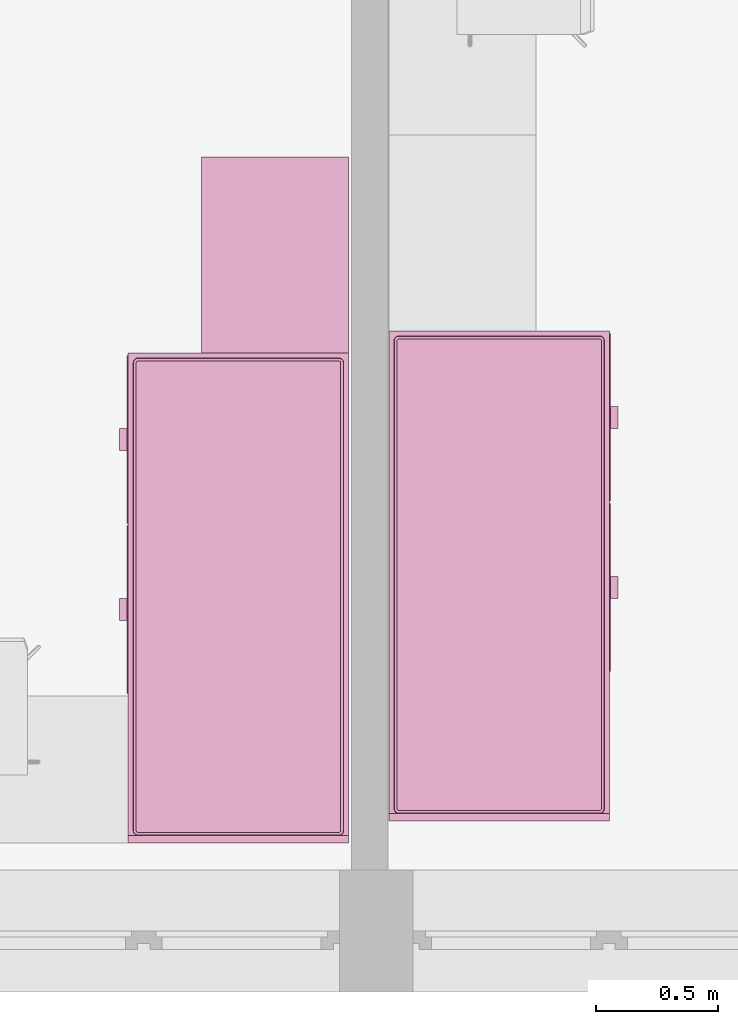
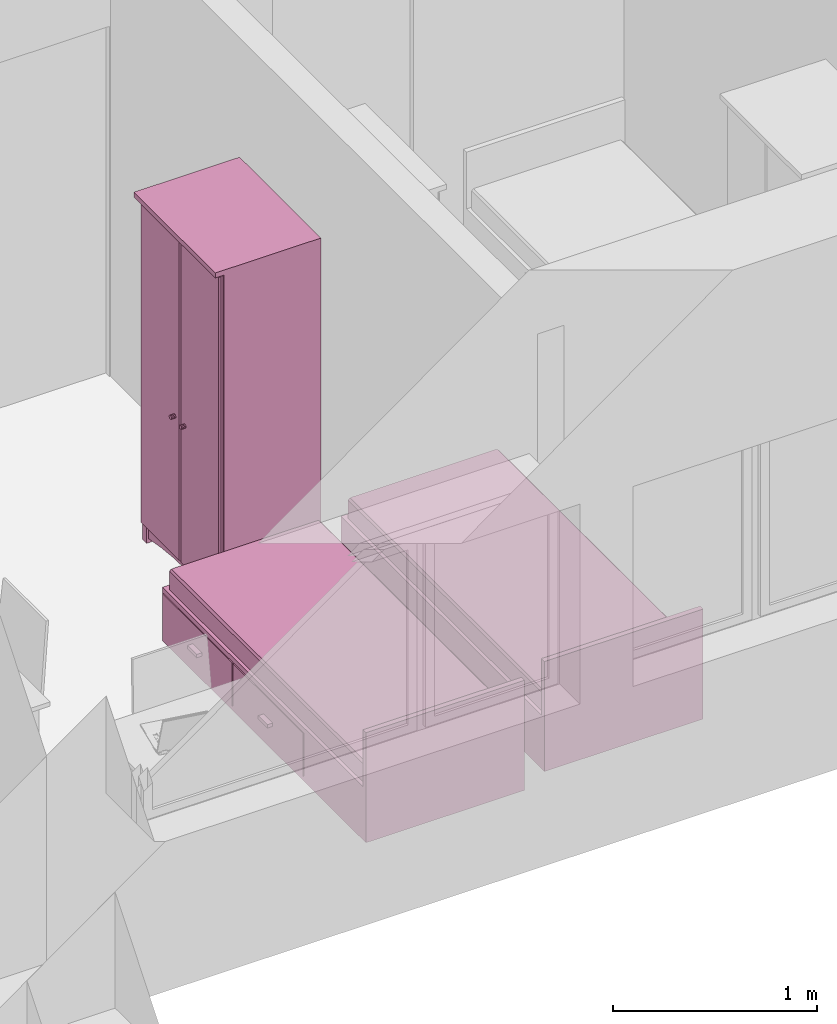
# One storey, part 113 of 165: 3 furnishings.
"""IFC2X3 building model written with IfcOpenShell, lengths in millimetres."""

from ifc_helpers import new_model, entity, si_unit, converted_unit, money_unit, direction, frame, origin_with_axes, place, context, subcontext, project, spatial, faceted_brep, source, transform, mapped, material, material_list, type_object, element, save


model = new_model("IFC2X3")

# Units and contexts
model_context = context("Model", 3, precision=1e-05, world=origin_with_axes(), true_north=direction((0.0, 1.0)))
body_context = subcontext(model_context, "Body", "Model", "MODEL_VIEW")
ifc_project = project(units=[si_unit("LENGTHUNIT", "METRE", prefix="MILLI"), si_unit("AREAUNIT", "SQUARE_METRE"), si_unit("VOLUMEUNIT", "CUBIC_METRE"), converted_unit("PLANEANGLEUNIT", "DEGREE", entity("IfcPlaneAngleMeasure", 0.0174532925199), si_unit("PLANEANGLEUNIT", "RADIAN"), dimensions=[0, 0, 0, 0, 0, 0, 0]), si_unit("SOLIDANGLEUNIT", "STERADIAN"), money_unit("USD"), converted_unit("TIMEUNIT", "Year", entity("IfcTimeMeasure", 31556926.0), si_unit("TIMEUNIT", "SECOND"), dimensions=[0, 0, 0, 0, 0, 0, 0]), si_unit("MASSUNIT", "GRAM"), si_unit("THERMODYNAMICTEMPERATUREUNIT", "DEGREE_CELSIUS"), si_unit("LUMINOUSINTENSITYUNIT", "LUMEN")], contexts=[model_context])

# Site, building, storey
site_placement = place(None, origin_with_axes())
site = spatial("IfcSite", under=ifc_project, at=site_placement, Name="Site", CompositionType="ELEMENT")
building_placement = place(site_placement, origin_with_axes())
building = spatial("IfcBuilding", under=site, at=building_placement, Name="Building", CompositionType="ELEMENT")
storey_placement = place(building_placement, frame((0.0, 0.0, 6300.0), z_axis=(0.0, 0.0, 1.0), x_axis=(1.0, 0.0, 0.0)))
storey = spatial("IfcBuildingStorey", under=building, at=storey_placement, Name="4KORRUS", CompositionType="ELEMENT", Elevation=6300.0)

# Furnishings
ifc_material = material(Name="Background")
ifc_material_list = material_list([ifc_material])
furnishing_element_type_1 = type_object("IfcFurnishingElementType", Name="Bed 19")
shared_shape_1 = source(origin_with_axes(), body_context, "Body", "Brep", [
    faceted_brep([(900.0, 1970.0, 0.0), (0.0, 1970.0, 0.0), (0.0, 2000.0, 0.0), (900.0, 2000.0, 0.0), (900.0, 1970.0, 660.0), (0.0, 1970.0, 660.0), (0.0, 2000.0, 660.0), (900.0, 2000.0, 660.0)], [[[0, 1, 2, 3]], [[1, 0, 4, 5]], [[2, 1, 5, 6]], [[3, 2, 6, 7]], [[0, 3, 7, 4]], [[5, 4, 7, 6]]]),
    faceted_brep([(900.0, 0.0, 0.0), (0.0, 0.0, 0.0), (0.0, 1970.0, 0.0), (900.0, 1970.0, 0.0), (900.0, 0.0, 320.0), (0.0, 0.0, 320.0), (0.0, 1970.0, 320.0), (900.0, 1970.0, 320.0)], [[[0, 1, 2, 3]], [[1, 0, 4, 5]], [[2, 1, 5, 6]], [[3, 2, 6, 7]], [[0, 3, 7, 4]], [[5, 4, 7, 6]]]),
    faceted_brep([(905.0, 10.0, 30.0), (900.0, 10.0, 30.0), (900.0, 695.0, 30.0), (905.0, 695.0, 30.0), (905.0, 10.0, 290.0), (900.0, 10.0, 290.0), (900.0, 695.0, 290.0), (905.0, 695.0, 290.0)], [[[0, 1, 2, 3]], [[1, 0, 4, 5]], [[2, 1, 5, 6]], [[3, 2, 6, 7]], [[0, 3, 7, 4]], [[5, 4, 7, 6]]]),
    faceted_brep([(935.0, 307.5, 150.0), (905.0, 307.5, 150.0), (905.0, 397.5, 150.0), (935.0, 397.5, 150.0), (935.0, 307.5, 170.0), (905.0, 307.5, 170.0), (905.0, 397.5, 170.0), (935.0, 397.5, 170.0)], [[[0, 1, 2, 3]], [[1, 0, 4, 5]], [[2, 1, 5, 6]], [[3, 2, 6, 7]], [[0, 3, 7, 4]], [[5, 4, 7, 6]]]),
    faceted_brep([(905.0, 705.0, 30.0), (900.0, 705.0, 30.0), (900.0, 1390.0, 30.0), (905.0, 1390.0, 30.0), (905.0, 705.0, 290.0), (900.0, 705.0, 290.0), (900.0, 1390.0, 290.0), (905.0, 1390.0, 290.0)], [[[0, 1, 2, 3]], [[1, 0, 4, 5]], [[2, 1, 5, 6]], [[3, 2, 6, 7]], [[0, 3, 7, 4]], [[5, 4, 7, 6]]]),
    faceted_brep([(935.0, 1002.5, 150.0), (905.0, 1002.5, 150.0), (905.0, 1092.5, 150.0), (935.0, 1092.5, 150.0), (935.0, 1002.5, 170.0), (905.0, 1002.5, 170.0), (905.0, 1092.5, 170.0), (935.0, 1092.5, 170.0)], [[[0, 1, 2, 3]], [[1, 0, 4, 5]], [[2, 1, 5, 6]], [[3, 2, 6, 7]], [[0, 3, 7, 4]], [[5, 4, 7, 6]]]),
    faceted_brep([(20.0, 40.0, 350.0), (20.0, 1950.0, 350.0), (21.522, 1957.654, 350.0), (25.858, 1964.142, 350.0), (32.346, 1968.478, 350.0), (40.0, 1970.0, 350.0), (860.0, 1970.0, 350.0), (867.654, 1968.478, 350.0), (874.142, 1964.142, 350.0), (878.478, 1957.654, 350.0), (880.0, 1950.0, 350.0), (880.0, 40.0, 350.0), (878.478, 32.346, 350.0), (874.142, 25.858, 350.0), (867.654, 21.522, 350.0), (860.0, 20.0, 350.0), (40.0, 20.0, 350.0), (32.346, 21.522, 350.0), (25.858, 25.858, 350.0), (21.522, 32.346, 350.0), (20.0, 40.0, 420.0), (20.0, 1950.0, 420.0), (21.522, 1957.654, 420.0), (25.858, 1964.142, 420.0), (32.346, 1968.478, 420.0), (40.0, 1970.0, 420.0), (860.0, 1970.0, 420.0), (867.654, 1968.478, 420.0), (874.142, 1964.142, 420.0), (878.478, 1957.654, 420.0), (880.0, 1950.0, 420.0), (880.0, 40.0, 420.0), (878.478, 32.346, 420.0), (874.142, 25.858, 420.0), (867.654, 21.522, 420.0), (860.0, 20.0, 420.0), (40.0, 20.0, 420.0), (32.346, 21.522, 420.0), (25.858, 25.858, 420.0), (21.522, 32.346, 420.0), (21.522, 40.15, 427.654), (21.522, 1949.85, 427.654), (22.956, 1957.06, 427.654), (26.955, 1963.045, 427.654), (32.94, 1967.044, 427.654), (40.15, 1968.478, 427.654), (859.85, 1968.478, 427.654), (867.06, 1967.044, 427.654), (873.045, 1963.045, 427.654), (877.044, 1957.06, 427.654), (878.478, 1949.85, 427.654), (878.478, 40.15, 427.654), (877.044, 32.94, 427.654), (873.045, 26.955, 427.654), (867.06, 22.956, 427.654), (859.85, 21.522, 427.654), (40.15, 21.522, 427.654), (32.94, 22.956, 427.654), (26.955, 26.955, 427.654), (22.956, 32.94, 427.654), (32.346, 41.216, 438.478), (32.346, 1948.784, 438.478), (33.152, 1952.836, 438.478), (34.759, 1955.241, 438.478), (37.164, 1956.848, 438.478), (41.216, 1957.654, 438.478), (858.784, 1957.654, 438.478), (862.836, 1956.848, 438.478), (865.241, 1955.241, 438.478), (866.848, 1952.836, 438.478), (867.654, 1948.784, 438.478), (867.654, 41.216, 438.478), (866.848, 37.164, 438.478), (865.241, 34.759, 438.478), (862.836, 33.152, 438.478), (858.784, 32.346, 438.478), (41.216, 32.346, 438.478), (37.164, 33.152, 438.478), (34.759, 34.759, 438.478), (33.152, 37.164, 438.478), (40.0, 41.97, 440.0), (40.0, 1948.03, 440.0), (40.327, 1949.673, 440.0), (40.0, 1950.0, 439.924), (41.97, 1950.0, 440.0), (858.03, 1950.0, 440.0), (859.673, 1949.673, 440.0), (860.0, 1950.0, 439.924), (860.0, 1948.03, 440.0), (860.0, 41.97, 440.0), (859.673, 40.327, 440.0), (860.0, 40.0, 439.924), (858.03, 40.0, 440.0), (41.97, 40.0, 440.0), (40.327, 40.327, 440.0), (40.0, 40.0, 439.924)], [[[0, 1, 2, 3, 4, 5, 6, 7, 8, 9, 10, 11, 12, 13, 14, 15, 16, 17, 18, 19]], [[1, 0, 20, 21]], [[2, 1, 21, 22]], [[3, 2, 22, 23]], [[4, 3, 23, 24]], [[5, 4, 24, 25]], [[6, 5, 25, 26]], [[7, 6, 26, 27]], [[8, 7, 27, 28]], [[9, 8, 28, 29]], [[10, 9, 29, 30]], [[11, 10, 30, 31]], [[12, 11, 31, 32]], [[13, 12, 32, 33]], [[14, 13, 33, 34]], [[15, 14, 34, 35]], [[16, 15, 35, 36]], [[17, 16, 36, 37]], [[18, 17, 37, 38]], [[19, 18, 38, 39]], [[0, 19, 39, 20]], [[21, 20, 40, 41]], [[22, 21, 41, 42]], [[23, 22, 42, 43]], [[24, 23, 43, 44]], [[25, 24, 44, 45]], [[26, 25, 45, 46]], [[27, 26, 46, 47]], [[28, 27, 47, 48]], [[29, 28, 48, 49]], [[30, 29, 49, 50]], [[31, 30, 50, 51]], [[32, 31, 51, 52]], [[33, 32, 52, 53]], [[34, 33, 53, 54]], [[35, 34, 54, 55]], [[36, 35, 55, 56]], [[37, 36, 56, 57]], [[38, 37, 57, 58]], [[39, 38, 58, 59]], [[20, 39, 59, 40]], [[41, 40, 60, 61]], [[42, 41, 61, 62]], [[43, 42, 62, 63]], [[44, 43, 63, 64]], [[45, 44, 64, 65]], [[46, 45, 65, 66]], [[47, 46, 66, 67]], [[48, 47, 67, 68]], [[49, 48, 68, 69]], [[50, 49, 69, 70]], [[51, 50, 70, 71]], [[52, 51, 71, 72]], [[53, 52, 72, 73]], [[54, 53, 73, 74]], [[55, 54, 74, 75]], [[56, 55, 75, 76]], [[57, 56, 76, 77]], [[58, 57, 77, 78]], [[59, 58, 78, 79]], [[40, 59, 79, 60]], [[61, 60, 80, 81]], [[62, 61, 81, 82, 83]], [[63, 62, 83]], [[64, 63, 83]], [[65, 64, 83, 82, 84]], [[66, 65, 84, 85]], [[67, 66, 85, 86, 87]], [[68, 67, 87]], [[69, 68, 87]], [[70, 69, 87, 86, 88]], [[71, 70, 88, 89]], [[72, 71, 89, 90, 91]], [[73, 72, 91]], [[74, 73, 91]], [[75, 74, 91, 90, 92]], [[76, 75, 92, 93]], [[77, 76, 93, 94, 95]], [[78, 77, 95]], [[79, 78, 95]], [[60, 79, 95, 94, 80]], [[81, 80, 94, 93, 92, 90, 89, 88, 86, 85, 84, 82]]]),
    faceted_brep([(20.0, 40.0, 350.0), (21.522, 32.346, 350.0), (25.858, 25.858, 350.0), (32.346, 21.522, 350.0), (40.0, 20.0, 350.0), (860.0, 20.0, 350.0), (867.654, 21.522, 350.0), (874.142, 25.858, 350.0), (878.478, 32.346, 350.0), (880.0, 40.0, 350.0), (880.0, 1950.0, 350.0), (878.478, 1957.654, 350.0), (874.142, 1964.142, 350.0), (867.654, 1968.478, 350.0), (860.0, 1970.0, 350.0), (40.0, 1970.0, 350.0), (32.346, 1968.478, 350.0), (25.858, 1964.142, 350.0), (21.522, 1957.654, 350.0), (20.0, 1950.0, 350.0), (20.0, 40.0, 320.0), (21.522, 32.346, 320.0), (25.858, 25.858, 320.0), (32.346, 21.522, 320.0), (40.0, 20.0, 320.0), (860.0, 20.0, 320.0), (867.654, 21.522, 320.0), (874.142, 25.858, 320.0), (878.478, 32.346, 320.0), (880.0, 40.0, 320.0), (880.0, 1950.0, 320.0), (878.478, 1957.654, 320.0), (874.142, 1964.142, 320.0), (867.654, 1968.478, 320.0), (860.0, 1970.0, 320.0), (40.0, 1970.0, 320.0), (32.346, 1968.478, 320.0), (25.858, 1964.142, 320.0), (21.522, 1957.654, 320.0), (20.0, 1950.0, 320.0)], [[[0, 1, 2, 3, 4, 5, 6, 7, 8, 9, 10, 11, 12, 13, 14, 15, 16, 17, 18, 19]], [[0, 20, 21, 1]], [[1, 21, 22, 2]], [[2, 22, 23, 3]], [[3, 23, 24, 4]], [[4, 24, 25, 5]], [[5, 25, 26, 6]], [[6, 26, 27, 7]], [[7, 27, 28, 8]], [[8, 28, 29, 9]], [[9, 29, 30, 10]], [[10, 30, 31, 11]], [[11, 31, 32, 12]], [[12, 32, 33, 13]], [[13, 33, 34, 14]], [[14, 34, 35, 15]], [[15, 35, 36, 16]], [[16, 36, 37, 17]], [[17, 37, 38, 18]], [[18, 38, 39, 19]], [[19, 39, 20, 0]], [[20, 39, 38, 37, 36, 35, 34, 33, 32, 31, 30, 29, 28, 27, 26, 25, 24, 23, 22, 21]]]),
])
furnishing_1_placement = place(storey_placement, frame((-3215.29670331, -17529.2398994, 0.0), z_axis=(0.0, 0.0, 1.0), x_axis=(-1.0, 0.0, 0.0)))
element("IfcFurnishingElement", 1, at=furnishing_1_placement, inside=storey, type_object=furnishing_element_type_1, material=ifc_material_list, Name="FU - 013", context=body_context, shape_type="MappedRepresentation", body=[
    mapped(shared_shape_1, transform((0.0, 0.0, 0.0))),
])
furnishing_element_type_2 = type_object("IfcFurnishingElementType", Name="Cupboard 19")
shared_shape_2 = source(origin_with_axes(), body_context, "Body", "Brep", [
    faceted_brep([(-780.0, 600.0, 120.0), (-780.0, 580.0, 120.0), (-780.0, 580.0, 2050.0), (-780.0, 600.0, 2050.0), (-20.0, 600.0, 120.0), (-20.0, 580.0, 120.0), (-20.0, 580.0, 2050.0), (-20.0, 600.0, 2050.0)], [[[0, 1, 2, 3]], [[0, 4, 5, 1]], [[1, 5, 6, 2]], [[3, 2, 6, 7]], [[4, 0, 3, 7]], [[5, 4, 7, 6]]]),
    faceted_brep([(0.0, 50.0, 100.0), (-20.0, 50.0, 100.0), (-20.0, 600.0, 100.0), (0.0, 600.0, 100.0), (0.0, 50.0, 2070.0), (-20.0, 50.0, 2070.0), (-20.0, 600.0, 2070.0), (0.0, 600.0, 2070.0)], [[[0, 1, 2, 3]], [[1, 0, 4, 5]], [[2, 1, 5, 6]], [[3, 2, 6, 7]], [[0, 3, 7, 4]], [[5, 4, 7, 6]]]),
    faceted_brep([(-780.0, 50.0, 100.0), (-800.0, 50.0, 100.0), (-800.0, 600.0, 100.0), (-780.0, 600.0, 100.0), (-780.0, 50.0, 2070.0), (-800.0, 50.0, 2070.0), (-800.0, 600.0, 2070.0), (-780.0, 600.0, 2070.0)], [[[0, 1, 2, 3]], [[1, 0, 4, 5]], [[2, 1, 5, 6]], [[3, 2, 6, 7]], [[0, 3, 7, 4]], [[5, 4, 7, 6]]]),
    faceted_brep([(-20.0, 50.0, 100.0), (-780.0, 50.0, 100.0), (-780.0, 600.0, 100.0), (-20.0, 600.0, 100.0), (-20.0, 50.0, 120.0), (-780.0, 50.0, 120.0), (-780.0, 600.0, 120.0), (-20.0, 600.0, 120.0)], [[[0, 1, 2, 3]], [[1, 0, 4, 5]], [[2, 1, 5, 6]], [[3, 2, 6, 7]], [[0, 3, 7, 4]], [[5, 4, 7, 6]]]),
    faceted_brep([(-20.0, 50.0, 2050.0), (-780.0, 50.0, 2050.0), (-780.0, 600.0, 2050.0), (-20.0, 600.0, 2050.0), (-20.0, 50.0, 2070.0), (-780.0, 50.0, 2070.0), (-780.0, 600.0, 2070.0), (-20.0, 600.0, 2070.0)], [[[0, 1, 2, 3]], [[1, 0, 4, 5]], [[2, 1, 5, 6]], [[3, 2, 6, 7]], [[0, 3, 7, 4]], [[5, 4, 7, 6]]]),
    faceted_brep([(0.0, 600.0, 2070.0), (0.0, 600.0, 2100.0), (0.0, 0.0, 2100.0), (0.0, 0.0, 2070.0), (-800.0, 600.0, 2070.0), (-800.0, 600.0, 2100.0), (-800.0, 0.0, 2100.0), (-800.0, 0.0, 2070.0)], [[[0, 1, 2, 3]], [[4, 5, 1, 0]], [[1, 5, 6, 2]], [[3, 2, 6, 7]], [[0, 3, 7, 4]], [[7, 6, 5, 4]]]),
    faceted_brep([(-760.0, 590.0, 25.0), (-640.962, 590.0, 45.8), (-640.962, 570.0, 45.8), (-760.0, 570.0, 25.0), (-760.0, 590.0, 100.0), (-40.0, 590.0, 100.0), (-40.0, 590.0, 25.0), (-159.038, 590.0, 45.8), (-279.23, 590.0, 58.32), (-400.0, 590.0, 62.5), (-520.77, 590.0, 58.32), (-520.77, 570.0, 58.32), (-400.0, 570.0, 62.5), (-279.23, 570.0, 58.32), (-159.038, 570.0, 45.8), (-40.0, 570.0, 25.0), (-40.0, 570.0, 100.0), (-760.0, 570.0, 100.0)], [[[0, 1, 2, 3]], [[0, 4, 5, 6, 7, 8, 9, 10, 1]], [[1, 10, 11, 2]], [[3, 2, 11, 12, 13, 14, 15, 16, 17]], [[4, 0, 3, 17]], [[5, 4, 17, 16]], [[6, 5, 16, 15]], [[7, 6, 15, 14]], [[8, 7, 14, 13]], [[9, 8, 13, 12]], [[10, 9, 12, 11]]]),
    faceted_brep([(-760.0, 80.0, 25.0), (-640.962, 80.0, 45.8), (-640.962, 60.0, 45.8), (-760.0, 60.0, 25.0), (-760.0, 80.0, 100.0), (-40.0, 80.0, 100.0), (-40.0, 80.0, 25.0), (-159.038, 80.0, 45.8), (-279.23, 80.0, 58.32), (-400.0, 80.0, 62.5), (-520.77, 80.0, 58.32), (-520.77, 60.0, 58.32), (-400.0, 60.0, 62.5), (-279.23, 60.0, 58.32), (-159.038, 60.0, 45.8), (-40.0, 60.0, 25.0), (-40.0, 60.0, 100.0), (-760.0, 60.0, 100.0)], [[[0, 1, 2, 3]], [[0, 4, 5, 6, 7, 8, 9, 10, 1]], [[1, 10, 11, 2]], [[3, 2, 11, 12, 13, 14, 15, 16, 17]], [[4, 0, 3, 17]], [[5, 4, 17, 16]], [[6, 5, 16, 15]], [[7, 6, 15, 14]], [[8, 7, 14, 13]], [[9, 8, 13, 12]], [[10, 9, 12, 11]]]),
    faceted_brep([(-790.0, 90.0, 25.0), (-790.0, 141.266, 38.072), (-770.0, 141.266, 38.072), (-770.0, 90.0, 25.0), (-790.0, 90.0, 100.0), (-790.0, 560.0, 100.0), (-790.0, 560.0, 25.0), (-790.0, 508.734, 38.072), (-790.0, 456.752, 47.92), (-790.0, 404.257, 54.508), (-790.0, 351.453, 57.808), (-790.0, 298.547, 57.808), (-790.0, 245.743, 54.508), (-790.0, 193.248, 47.92), (-770.0, 193.248, 47.92), (-770.0, 245.743, 54.508), (-770.0, 298.547, 57.808), (-770.0, 351.453, 57.808), (-770.0, 404.257, 54.508), (-770.0, 456.752, 47.92), (-770.0, 508.734, 38.072), (-770.0, 560.0, 25.0), (-770.0, 560.0, 100.0), (-770.0, 90.0, 100.0)], [[[0, 1, 2, 3]], [[0, 4, 5, 6, 7, 8, 9, 10, 11, 12, 13, 1]], [[1, 13, 14, 2]], [[3, 2, 14, 15, 16, 17, 18, 19, 20, 21, 22, 23]], [[4, 0, 3, 23]], [[5, 4, 23, 22]], [[6, 5, 22, 21]], [[7, 6, 21, 20]], [[8, 7, 20, 19]], [[9, 8, 19, 18]], [[10, 9, 18, 17]], [[11, 10, 17, 16]], [[12, 11, 16, 15]], [[13, 12, 15, 14]]]),
    faceted_brep([(-30.0, 90.0, 25.0), (-30.0, 141.266, 38.072), (-10.0, 141.266, 38.072), (-10.0, 90.0, 25.0), (-30.0, 90.0, 100.0), (-30.0, 560.0, 100.0), (-30.0, 560.0, 25.0), (-30.0, 508.734, 38.072), (-30.0, 456.752, 47.92), (-30.0, 404.257, 54.508), (-30.0, 351.453, 57.808), (-30.0, 298.547, 57.808), (-30.0, 245.743, 54.508), (-30.0, 193.248, 47.92), (-10.0, 193.248, 47.92), (-10.0, 245.743, 54.508), (-10.0, 298.547, 57.808), (-10.0, 351.453, 57.808), (-10.0, 404.257, 54.508), (-10.0, 456.752, 47.92), (-10.0, 508.734, 38.072), (-10.0, 560.0, 25.0), (-10.0, 560.0, 100.0), (-10.0, 90.0, 100.0)], [[[0, 1, 2, 3]], [[0, 4, 5, 6, 7, 8, 9, 10, 11, 12, 13, 1]], [[1, 13, 14, 2]], [[3, 2, 14, 15, 16, 17, 18, 19, 20, 21, 22, 23]], [[4, 0, 3, 23]], [[5, 4, 23, 22]], [[6, 5, 22, 21]], [[7, 6, 21, 20]], [[8, 7, 20, 19]], [[9, 8, 19, 18]], [[10, 9, 18, 17]], [[11, 10, 17, 16]], [[12, 11, 16, 15]], [[13, 12, 15, 14]]]),
    faceted_brep([(-760.0, 560.0, 0.0), (-760.0, 600.0, 0.0), (-760.0, 600.0, 100.0), (-760.0, 560.0, 100.0), (-800.0, 560.0, 0.0), (-800.0, 600.0, 0.0), (-800.0, 600.0, 100.0), (-800.0, 560.0, 100.0)], [[[0, 1, 2, 3]], [[0, 4, 5, 1]], [[1, 5, 6, 2]], [[3, 2, 6, 7]], [[4, 0, 3, 7]], [[5, 4, 7, 6]]]),
    faceted_brep([(0.0, 560.0, 0.0), (0.0, 600.0, 0.0), (0.0, 600.0, 100.0), (0.0, 560.0, 100.0), (-40.0, 560.0, 0.0), (-40.0, 600.0, 0.0), (-40.0, 600.0, 100.0), (-40.0, 560.0, 100.0)], [[[0, 1, 2, 3]], [[0, 4, 5, 1]], [[1, 5, 6, 2]], [[3, 2, 6, 7]], [[4, 0, 3, 7]], [[5, 4, 7, 6]]]),
    faceted_brep([(-760.0, 50.0, 0.0), (-760.0, 90.0, 0.0), (-760.0, 90.0, 100.0), (-760.0, 50.0, 100.0), (-800.0, 50.0, 0.0), (-800.0, 90.0, 0.0), (-800.0, 90.0, 100.0), (-800.0, 50.0, 100.0)], [[[0, 1, 2, 3]], [[0, 4, 5, 1]], [[1, 5, 6, 2]], [[3, 2, 6, 7]], [[4, 0, 3, 7]], [[5, 4, 7, 6]]]),
    faceted_brep([(0.0, 50.0, 0.0), (0.0, 90.0, 0.0), (0.0, 90.0, 100.0), (0.0, 50.0, 100.0), (-40.0, 50.0, 0.0), (-40.0, 90.0, 0.0), (-40.0, 90.0, 100.0), (-40.0, 50.0, 100.0)], [[[0, 1, 2, 3]], [[0, 4, 5, 1]], [[1, 5, 6, 2]], [[3, 2, 6, 7]], [[4, 0, 3, 7]], [[5, 4, 7, 6]]]),
    faceted_brep([(-780.0, 580.0, 587.5), (-780.0, 50.0, 587.5), (-780.0, 50.0, 607.5), (-780.0, 580.0, 607.5), (-20.0, 580.0, 587.5), (-20.0, 50.0, 587.5), (-20.0, 50.0, 607.5), (-20.0, 580.0, 607.5)], [[[0, 1, 2, 3]], [[0, 4, 5, 1]], [[1, 5, 6, 2]], [[3, 2, 6, 7]], [[4, 0, 3, 7]], [[5, 4, 7, 6]]]),
    faceted_brep([(-780.0, 580.0, 1075.0), (-780.0, 50.0, 1075.0), (-780.0, 50.0, 1095.0), (-780.0, 580.0, 1095.0), (-20.0, 580.0, 1075.0), (-20.0, 50.0, 1075.0), (-20.0, 50.0, 1095.0), (-20.0, 580.0, 1095.0)], [[[0, 1, 2, 3]], [[0, 4, 5, 1]], [[1, 5, 6, 2]], [[3, 2, 6, 7]], [[4, 0, 3, 7]], [[5, 4, 7, 6]]]),
    faceted_brep([(-780.0, 580.0, 1562.5), (-780.0, 50.0, 1562.5), (-780.0, 50.0, 1582.5), (-780.0, 580.0, 1582.5), (-20.0, 580.0, 1562.5), (-20.0, 50.0, 1562.5), (-20.0, 50.0, 1582.5), (-20.0, 580.0, 1582.5)], [[[0, 1, 2, 3]], [[0, 4, 5, 1]], [[1, 5, 6, 2]], [[3, 2, 6, 7]], [[4, 0, 3, 7]], [[5, 4, 7, 6]]]),
    faceted_brep([(-789.5, 50.0, 110.5), (-789.5, 50.0, 2059.5), (-400.5, 50.0, 2059.5), (-400.5, 50.0, 110.5), (-789.5, 40.0, 110.5), (-789.5, 40.0, 2059.5), (-400.5, 40.0, 2059.5), (-400.5, 40.0, 110.5), (-779.5, 30.0, 120.5), (-779.5, 30.0, 2049.5), (-410.5, 30.0, 2049.5), (-410.5, 30.0, 120.5)], [[[0, 1, 2, 3]], [[1, 0, 4, 5]], [[2, 1, 5, 6]], [[3, 2, 6, 7]], [[0, 3, 7, 4]], [[5, 4, 8, 9]], [[6, 5, 9, 10]], [[7, 6, 10, 11]], [[4, 7, 11, 8]], [[10, 9, 8, 11]]]),
    faceted_brep([(-399.5, 50.0, 110.5), (-399.5, 50.0, 2059.5), (-10.5, 50.0, 2059.5), (-10.5, 50.0, 110.5), (-399.5, 40.0, 110.5), (-399.5, 40.0, 2059.5), (-10.5, 40.0, 2059.5), (-10.5, 40.0, 110.5), (-389.5, 30.0, 120.5), (-389.5, 30.0, 2049.5), (-20.5, 30.0, 2049.5), (-20.5, 30.0, 120.5)], [[[0, 1, 2, 3]], [[1, 0, 4, 5]], [[2, 1, 5, 6]], [[3, 2, 6, 7]], [[0, 3, 7, 4]], [[5, 4, 8, 9]], [[6, 5, 9, 10]], [[7, 6, 10, 11]], [[4, 7, 11, 8]], [[10, 9, 8, 11]]]),
    faceted_brep([(-339.608, 30.0, 954.0), (-344.0, 30.0, 949.608), (-350.0, 30.0, 948.0), (-356.0, 30.0, 949.608), (-360.392, 30.0, 954.0), (-362.0, 30.0, 960.0), (-360.392, 30.0, 966.0), (-356.0, 30.0, 970.392), (-350.0, 30.0, 972.0), (-344.0, 30.0, 970.392), (-339.608, 30.0, 966.0), (-338.0, 30.0, 960.0), (-339.608, 5.0, 954.0), (-344.0, 5.0, 949.608), (-350.0, 5.0, 948.0), (-356.0, 5.0, 949.608), (-360.392, 5.0, 954.0), (-362.0, 5.0, 960.0), (-360.392, 5.0, 966.0), (-356.0, 5.0, 970.392), (-350.0, 5.0, 972.0), (-344.0, 5.0, 970.392), (-339.608, 5.0, 966.0), (-338.0, 5.0, 960.0)], [[[0, 1, 2, 3, 4, 5, 6, 7, 8, 9, 10, 11]], [[1, 0, 12, 13]], [[2, 1, 13, 14]], [[3, 2, 14, 15]], [[4, 3, 15, 16]], [[5, 4, 16, 17]], [[6, 5, 17, 18]], [[7, 6, 18, 19]], [[8, 7, 19, 20]], [[9, 8, 20, 21]], [[10, 9, 21, 22]], [[11, 10, 22, 23]], [[0, 11, 23, 12]], [[12, 23, 22, 21, 20, 19, 18, 17, 16, 15, 14, 13]]]),
    faceted_brep([(-460.392, 30.0, 954.0), (-462.0, 30.0, 960.0), (-460.392, 30.0, 966.0), (-456.0, 30.0, 970.392), (-450.0, 30.0, 972.0), (-444.0, 30.0, 970.392), (-439.608, 30.0, 966.0), (-438.0, 30.0, 960.0), (-439.608, 30.0, 954.0), (-444.0, 30.0, 949.608), (-450.0, 30.0, 948.0), (-456.0, 30.0, 949.608), (-460.392, 5.0, 954.0), (-462.0, 5.0, 960.0), (-460.392, 5.0, 966.0), (-456.0, 5.0, 970.392), (-450.0, 5.0, 972.0), (-444.0, 5.0, 970.392), (-439.608, 5.0, 966.0), (-438.0, 5.0, 960.0), (-439.608, 5.0, 954.0), (-444.0, 5.0, 949.608), (-450.0, 5.0, 948.0), (-456.0, 5.0, 949.608)], [[[0, 1, 2, 3, 4, 5, 6, 7, 8, 9, 10, 11]], [[0, 12, 13, 1]], [[1, 13, 14, 2]], [[2, 14, 15, 3]], [[3, 15, 16, 4]], [[4, 16, 17, 5]], [[5, 17, 18, 6]], [[6, 18, 19, 7]], [[7, 19, 20, 8]], [[8, 20, 21, 9]], [[9, 21, 22, 10]], [[10, 22, 23, 11]], [[11, 23, 12, 0]], [[12, 23, 22, 21, 20, 19, 18, 17, 16, 15, 14, 13]]]),
])
furnishing_2_placement = place(storey_placement, frame((-3815.29670331, -17529.2398994, 0.0), z_axis=(0.0, 0.0, 1.0), x_axis=(0.0, -1.0, 0.0)))
element("IfcFurnishingElement", 2, at=furnishing_2_placement, inside=storey, type_object=furnishing_element_type_2, material=ifc_material_list, Name="FU - 014", context=body_context, shape_type="MappedRepresentation", body=[
    mapped(shared_shape_2, transform((0.0, 0.0, 0.0))),
])
shared_shape_3 = source(origin_with_axes(), body_context, "Body", "Brep", [
    faceted_brep([(-900.0, 1970.0, 0.0), (-900.0, 2000.0, 0.0), (0.0, 2000.0, 0.0), (0.0, 1970.0, 0.0), (-900.0, 1970.0, 660.0), (-900.0, 2000.0, 660.0), (0.0, 2000.0, 660.0), (0.0, 1970.0, 660.0)], [[[0, 1, 2, 3]], [[0, 4, 5, 1]], [[1, 5, 6, 2]], [[2, 6, 7, 3]], [[3, 7, 4, 0]], [[7, 6, 5, 4]]]),
    faceted_brep([(-900.0, 0.0, 0.0), (-900.0, 1970.0, 0.0), (0.0, 1970.0, 0.0), (0.0, 0.0, 0.0), (-900.0, 0.0, 320.0), (-900.0, 1970.0, 320.0), (0.0, 1970.0, 320.0), (0.0, 0.0, 320.0)], [[[0, 1, 2, 3]], [[0, 4, 5, 1]], [[1, 5, 6, 2]], [[2, 6, 7, 3]], [[3, 7, 4, 0]], [[7, 6, 5, 4]]]),
    faceted_brep([(-905.0, 10.0, 30.0), (-905.0, 695.0, 30.0), (-900.0, 695.0, 30.0), (-900.0, 10.0, 30.0), (-905.0, 10.0, 290.0), (-905.0, 695.0, 290.0), (-900.0, 695.0, 290.0), (-900.0, 10.0, 290.0)], [[[0, 1, 2, 3]], [[0, 4, 5, 1]], [[1, 5, 6, 2]], [[2, 6, 7, 3]], [[3, 7, 4, 0]], [[7, 6, 5, 4]]]),
    faceted_brep([(-935.0, 307.5, 150.0), (-935.0, 397.5, 150.0), (-905.0, 397.5, 150.0), (-905.0, 307.5, 150.0), (-935.0, 307.5, 170.0), (-935.0, 397.5, 170.0), (-905.0, 397.5, 170.0), (-905.0, 307.5, 170.0)], [[[0, 1, 2, 3]], [[0, 4, 5, 1]], [[1, 5, 6, 2]], [[2, 6, 7, 3]], [[3, 7, 4, 0]], [[7, 6, 5, 4]]]),
    faceted_brep([(-905.0, 705.0, 30.0), (-905.0, 1390.0, 30.0), (-900.0, 1390.0, 30.0), (-900.0, 705.0, 30.0), (-905.0, 705.0, 290.0), (-905.0, 1390.0, 290.0), (-900.0, 1390.0, 290.0), (-900.0, 705.0, 290.0)], [[[0, 1, 2, 3]], [[0, 4, 5, 1]], [[1, 5, 6, 2]], [[2, 6, 7, 3]], [[3, 7, 4, 0]], [[7, 6, 5, 4]]]),
    faceted_brep([(-935.0, 1002.5, 150.0), (-935.0, 1092.5, 150.0), (-905.0, 1092.5, 150.0), (-905.0, 1002.5, 150.0), (-935.0, 1002.5, 170.0), (-935.0, 1092.5, 170.0), (-905.0, 1092.5, 170.0), (-905.0, 1002.5, 170.0)], [[[0, 1, 2, 3]], [[0, 4, 5, 1]], [[1, 5, 6, 2]], [[2, 6, 7, 3]], [[3, 7, 4, 0]], [[7, 6, 5, 4]]]),
    faceted_brep([(-20.0, 40.0, 350.0), (-21.522, 32.346, 350.0), (-25.858, 25.858, 350.0), (-32.346, 21.522, 350.0), (-40.0, 20.0, 350.0), (-860.0, 20.0, 350.0), (-867.654, 21.522, 350.0), (-874.142, 25.858, 350.0), (-878.478, 32.346, 350.0), (-880.0, 40.0, 350.0), (-880.0, 1950.0, 350.0), (-878.478, 1957.654, 350.0), (-874.142, 1964.142, 350.0), (-867.654, 1968.478, 350.0), (-860.0, 1970.0, 350.0), (-40.0, 1970.0, 350.0), (-32.346, 1968.478, 350.0), (-25.858, 1964.142, 350.0), (-21.522, 1957.654, 350.0), (-20.0, 1950.0, 350.0), (-20.0, 40.0, 420.0), (-21.522, 32.346, 420.0), (-25.858, 25.858, 420.0), (-32.346, 21.522, 420.0), (-40.0, 20.0, 420.0), (-860.0, 20.0, 420.0), (-867.654, 21.522, 420.0), (-874.142, 25.858, 420.0), (-878.478, 32.346, 420.0), (-880.0, 40.0, 420.0), (-880.0, 1950.0, 420.0), (-878.478, 1957.654, 420.0), (-874.142, 1964.142, 420.0), (-867.654, 1968.478, 420.0), (-860.0, 1970.0, 420.0), (-40.0, 1970.0, 420.0), (-32.346, 1968.478, 420.0), (-25.858, 1964.142, 420.0), (-21.522, 1957.654, 420.0), (-20.0, 1950.0, 420.0), (-21.522, 40.15, 427.654), (-22.956, 32.94, 427.654), (-26.955, 26.955, 427.654), (-32.94, 22.956, 427.654), (-40.15, 21.522, 427.654), (-859.85, 21.522, 427.654), (-867.06, 22.956, 427.654), (-873.045, 26.955, 427.654), (-877.044, 32.94, 427.654), (-878.478, 40.15, 427.654), (-878.478, 1949.85, 427.654), (-877.044, 1957.06, 427.654), (-873.045, 1963.045, 427.654), (-867.06, 1967.044, 427.654), (-859.85, 1968.478, 427.654), (-40.15, 1968.478, 427.654), (-32.94, 1967.044, 427.654), (-26.955, 1963.045, 427.654), (-22.956, 1957.06, 427.654), (-21.522, 1949.85, 427.654), (-32.346, 41.216, 438.478), (-33.152, 37.164, 438.478), (-34.759, 34.759, 438.478), (-37.164, 33.152, 438.478), (-41.216, 32.346, 438.478), (-858.784, 32.346, 438.478), (-862.836, 33.152, 438.478), (-865.241, 34.759, 438.478), (-866.848, 37.164, 438.478), (-867.654, 41.216, 438.478), (-867.654, 1948.784, 438.478), (-866.848, 1952.836, 438.478), (-865.241, 1955.241, 438.478), (-862.836, 1956.848, 438.478), (-858.784, 1957.654, 438.478), (-41.216, 1957.654, 438.478), (-37.164, 1956.848, 438.478), (-34.759, 1955.241, 438.478), (-33.152, 1952.836, 438.478), (-32.346, 1948.784, 438.478), (-40.0, 41.97, 440.0), (-40.327, 40.327, 440.0), (-40.0, 40.0, 439.924), (-41.97, 40.0, 440.0), (-858.03, 40.0, 440.0), (-859.673, 40.327, 440.0), (-860.0, 40.0, 439.924), (-860.0, 41.97, 440.0), (-860.0, 1948.03, 440.0), (-859.673, 1949.673, 440.0), (-860.0, 1950.0, 439.924), (-858.03, 1950.0, 440.0), (-41.97, 1950.0, 440.0), (-40.327, 1949.673, 440.0), (-40.0, 1950.0, 439.924), (-40.0, 1948.03, 440.0)], [[[0, 1, 2, 3, 4, 5, 6, 7, 8, 9, 10, 11, 12, 13, 14, 15, 16, 17, 18, 19]], [[0, 20, 21, 1]], [[1, 21, 22, 2]], [[2, 22, 23, 3]], [[3, 23, 24, 4]], [[4, 24, 25, 5]], [[5, 25, 26, 6]], [[6, 26, 27, 7]], [[7, 27, 28, 8]], [[8, 28, 29, 9]], [[9, 29, 30, 10]], [[10, 30, 31, 11]], [[11, 31, 32, 12]], [[12, 32, 33, 13]], [[13, 33, 34, 14]], [[14, 34, 35, 15]], [[15, 35, 36, 16]], [[16, 36, 37, 17]], [[17, 37, 38, 18]], [[18, 38, 39, 19]], [[19, 39, 20, 0]], [[20, 40, 41, 21]], [[21, 41, 42, 22]], [[22, 42, 43, 23]], [[23, 43, 44, 24]], [[24, 44, 45, 25]], [[25, 45, 46, 26]], [[26, 46, 47, 27]], [[27, 47, 48, 28]], [[28, 48, 49, 29]], [[29, 49, 50, 30]], [[30, 50, 51, 31]], [[31, 51, 52, 32]], [[32, 52, 53, 33]], [[33, 53, 54, 34]], [[34, 54, 55, 35]], [[35, 55, 56, 36]], [[36, 56, 57, 37]], [[37, 57, 58, 38]], [[38, 58, 59, 39]], [[39, 59, 40, 20]], [[40, 60, 61, 41]], [[41, 61, 62, 42]], [[42, 62, 63, 43]], [[43, 63, 64, 44]], [[44, 64, 65, 45]], [[45, 65, 66, 46]], [[46, 66, 67, 47]], [[47, 67, 68, 48]], [[48, 68, 69, 49]], [[49, 69, 70, 50]], [[50, 70, 71, 51]], [[51, 71, 72, 52]], [[52, 72, 73, 53]], [[53, 73, 74, 54]], [[54, 74, 75, 55]], [[55, 75, 76, 56]], [[56, 76, 77, 57]], [[57, 77, 78, 58]], [[58, 78, 79, 59]], [[59, 79, 60, 40]], [[60, 80, 81, 82, 61]], [[61, 82, 62]], [[62, 82, 63]], [[63, 82, 81, 83, 64]], [[64, 83, 84, 65]], [[65, 84, 85, 86, 66]], [[66, 86, 67]], [[67, 86, 68]], [[68, 86, 85, 87, 69]], [[69, 87, 88, 70]], [[70, 88, 89, 90, 71]], [[71, 90, 72]], [[72, 90, 73]], [[73, 90, 89, 91, 74]], [[74, 91, 92, 75]], [[75, 92, 93, 94, 76]], [[76, 94, 77]], [[77, 94, 78]], [[78, 94, 93, 95, 79]], [[79, 95, 80, 60]], [[95, 93, 92, 91, 89, 88, 87, 85, 84, 83, 81, 80]]]),
    faceted_brep([(-20.0, 40.0, 350.0), (-20.0, 1950.0, 350.0), (-21.522, 1957.654, 350.0), (-25.858, 1964.142, 350.0), (-32.346, 1968.478, 350.0), (-40.0, 1970.0, 350.0), (-860.0, 1970.0, 350.0), (-867.654, 1968.478, 350.0), (-874.142, 1964.142, 350.0), (-878.478, 1957.654, 350.0), (-880.0, 1950.0, 350.0), (-880.0, 40.0, 350.0), (-878.478, 32.346, 350.0), (-874.142, 25.858, 350.0), (-867.654, 21.522, 350.0), (-860.0, 20.0, 350.0), (-40.0, 20.0, 350.0), (-32.346, 21.522, 350.0), (-25.858, 25.858, 350.0), (-21.522, 32.346, 350.0), (-20.0, 40.0, 320.0), (-20.0, 1950.0, 320.0), (-21.522, 1957.654, 320.0), (-25.858, 1964.142, 320.0), (-32.346, 1968.478, 320.0), (-40.0, 1970.0, 320.0), (-860.0, 1970.0, 320.0), (-867.654, 1968.478, 320.0), (-874.142, 1964.142, 320.0), (-878.478, 1957.654, 320.0), (-880.0, 1950.0, 320.0), (-880.0, 40.0, 320.0), (-878.478, 32.346, 320.0), (-874.142, 25.858, 320.0), (-867.654, 21.522, 320.0), (-860.0, 20.0, 320.0), (-40.0, 20.0, 320.0), (-32.346, 21.522, 320.0), (-25.858, 25.858, 320.0), (-21.522, 32.346, 320.0)], [[[0, 1, 2, 3, 4, 5, 6, 7, 8, 9, 10, 11, 12, 13, 14, 15, 16, 17, 18, 19]], [[1, 0, 20, 21]], [[2, 1, 21, 22]], [[3, 2, 22, 23]], [[4, 3, 23, 24]], [[5, 4, 24, 25]], [[6, 5, 25, 26]], [[7, 6, 26, 27]], [[8, 7, 27, 28]], [[9, 8, 28, 29]], [[10, 9, 29, 30]], [[11, 10, 30, 31]], [[12, 11, 31, 32]], [[13, 12, 32, 33]], [[14, 13, 33, 34]], [[15, 14, 34, 35]], [[16, 15, 35, 36]], [[17, 16, 36, 37]], [[18, 17, 37, 38]], [[19, 18, 38, 39]], [[0, 19, 39, 20]], [[20, 39, 38, 37, 36, 35, 34, 33, 32, 31, 30, 29, 28, 27, 26, 25, 24, 23, 22, 21]]]),
])
furnishing_3_placement = place(storey_placement, frame((-3050.43715218, -17439.2398994, 0.0), z_axis=(0.0, 0.0, 1.0), x_axis=(-1.0, 0.0, 0.0)))
element("IfcFurnishingElement", 3, at=furnishing_3_placement, inside=storey, type_object=furnishing_element_type_1, material=ifc_material_list, Name="FU - 013", context=body_context, shape_type="MappedRepresentation", body=[
    mapped(shared_shape_3, transform((0.0, 0.0, 0.0))),
])

save(model, "model.ifc")
